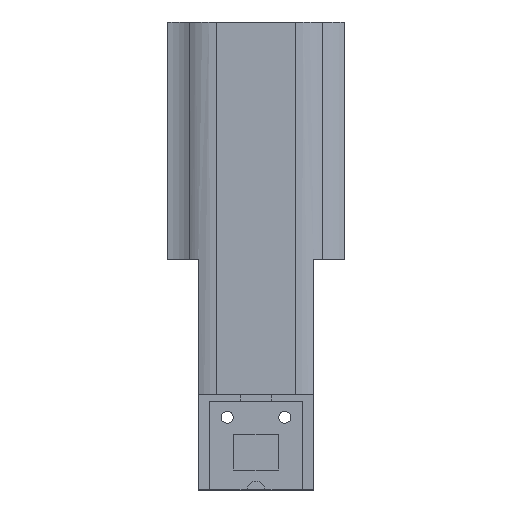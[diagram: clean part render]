
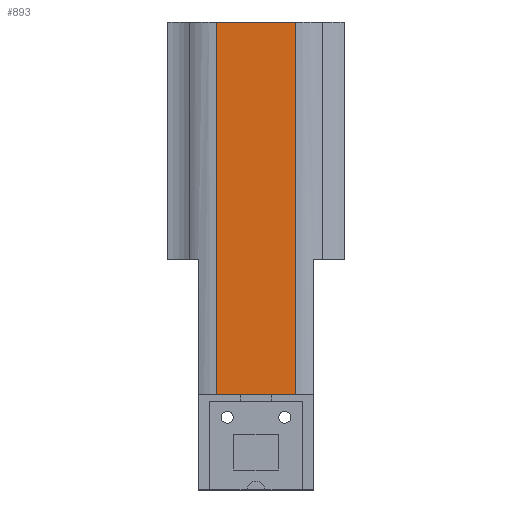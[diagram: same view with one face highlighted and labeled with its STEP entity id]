
A CAD part, top view. The second image highlights one B-rep face of the part: STEP entity #893.
In plain terms, the highlighted planar face has unit normal (0, 0, 1).
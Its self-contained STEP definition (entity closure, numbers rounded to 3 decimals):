
#41=PLANE('',#981);
#111=LINE('',#1541,#206);
#128=LINE('',#1584,#223);
#130=LINE('',#1588,#225);
#131=LINE('',#1589,#226);
#206=VECTOR('',#1152,10.);
#223=VECTOR('',#1191,10.);
#225=VECTOR('',#1195,10.);
#226=VECTOR('',#1196,10.);
#291=FACE_OUTER_BOUND('',#341,.T.);
#341=EDGE_LOOP('',(#770,#771,#772,#773));
#444=VERTEX_POINT('',#1538);
#445=VERTEX_POINT('',#1540);
#460=VERTEX_POINT('',#1582);
#461=VERTEX_POINT('',#1587);
#550=EDGE_CURVE('',#444,#445,#111,.T.);
#572=EDGE_CURVE('',#460,#444,#128,.T.);
#574=EDGE_CURVE('',#460,#461,#130,.T.);
#575=EDGE_CURVE('',#445,#461,#131,.T.);
#770=ORIENTED_EDGE('',*,*,#572,.F.);
#771=ORIENTED_EDGE('',*,*,#574,.T.);
#772=ORIENTED_EDGE('',*,*,#575,.F.);
#773=ORIENTED_EDGE('',*,*,#550,.F.);
#893=ADVANCED_FACE('',(#291),#41,.T.);
#981=AXIS2_PLACEMENT_3D('',#1586,#1193,#1194);
#1152=DIRECTION('',(-1.,0.,0.));
#1191=DIRECTION('',(0.,-1.,0.));
#1193=DIRECTION('center_axis',(0.,0.,1.));
#1194=DIRECTION('ref_axis',(0.,1.,0.));
#1195=DIRECTION('',(-1.,0.,0.));
#1196=DIRECTION('',(0.,1.,0.));
#1538=CARTESIAN_POINT('',(8.968,13.,0.));
#1540=CARTESIAN_POINT('',(-8.968,13.,0.));
#1541=CARTESIAN_POINT('',(13.,13.,0.));
#1582=CARTESIAN_POINT('',(8.968,97.,0.));
#1584=CARTESIAN_POINT('',(8.968,97.,0.));
#1586=CARTESIAN_POINT('Origin',(13.,-13.,0.));
#1587=CARTESIAN_POINT('',(-8.968,97.,0.));
#1588=CARTESIAN_POINT('',(13.,97.,0.));
#1589=CARTESIAN_POINT('',(-8.968,97.,0.));
